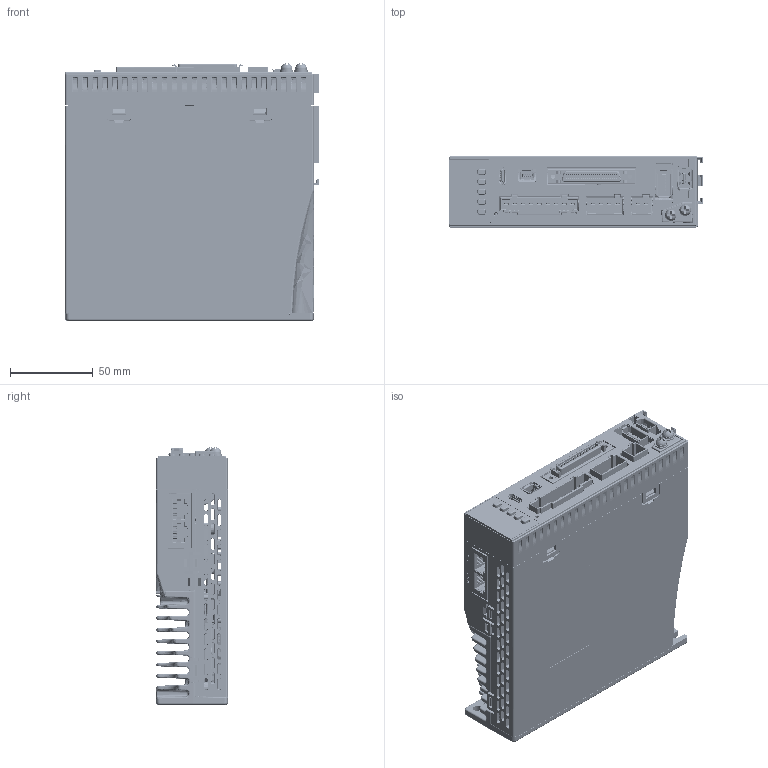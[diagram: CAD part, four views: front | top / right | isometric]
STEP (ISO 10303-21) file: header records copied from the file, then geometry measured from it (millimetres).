
FILE_DESCRIPTION((''),'2;1');
FILE_NAME('00-L8-400-ALL_ASM','2022-07-07T17:25:45',('Administrator'),(''),'CREO PARAMETRIC BY PTC INC, 2019224','CREO PARAMETRIC BY PTC INC, 2019224','');
FILE_SCHEMA(('CONFIG_CONTROL_DESIGN','GEOMETRIC_VALIDATION_PROPERTIES_MIM'));
Products named in the file (35): PCB_L8D1; CN-5-0-1X9-47-2X18-1; CN-5-0-1X4-26-2X18-1; CN-5-0-1X2-16-2X18-1; DB201S-HY; STGIB20M60TS-L; 0805LED; PCB_L8D1_ASM; KEY-PCB; L8-PCB-ALL_ASM; L8-400-BOT; L8-400-YKL; L8-400-KEY-CAP; L8-400-COOLING-FIN-20220518; L8-400-BODY_ASM; SCDZ-400; LINE-1; LINE-2; M4X10_GB818_1; D4_GB9074_26_1; D4_GB9074_24_1; M4X10_GB9074_4_ASM; L8RS-400-PCB3; USB-J-TP16-3U10; MINI-IO-0-635-TYPE1; C-5-2232303-2-A-3D; 1394-6P; SC-MCR10S90; RJ45-2-NL; L8RS-PCB-ALL_ASM; L8RS-400-TOP; L8RS-400-FRONT; L8RS-400_ASM; L8-400-ALL_ASM; 00-L8-400-ALL_ASM
Assembly tree (35 placements, depth 5):
  00-L8-400-ALL_ASM
    L8-400-ALL_ASM
      L8-PCB-ALL_ASM
        PCB_L8D1_ASM
          PCB_L8D1
          CN-5-0-1X9-47-2X18-1
          CN-5-0-1X4-26-2X18-1
          CN-5-0-1X2-16-2X18-1
          DB201S-HY
          STGIB20M60TS-L
          0805LED
        KEY-PCB
      L8-400-BODY_ASM
        L8-400-BOT
        L8-400-YKL
        L8-400-KEY-CAP
        L8-400-COOLING-FIN-20220518
      SCDZ-400
      LINE-1
      LINE-2
      M4X10_GB9074_4_ASM  x2
        M4X10_GB818_1
        D4_GB9074_26_1
        D4_GB9074_24_1
      L8RS-400_ASM
        L8RS-PCB-ALL_ASM
          L8RS-400-PCB3
          USB-J-TP16-3U10
          MINI-IO-0-635-TYPE1
          C-5-2232303-2-A-3D
          1394-6P
          SC-MCR10S90
          RJ45-2-NL
        L8RS-400-TOP
        L8RS-400-FRONT
Bounding box: 153.3 x 43 x 155.53 mm (x, y, z)
Volume: 386188.6 mm3; surface area: 310783.6 mm2
Topology: 31 solids, 97 shells, 11841 faces, 31476 edges, 19936 vertices
Faces by surface type: plane 7767, cylinder 2214, bspline 1058, cone 450, torus 157, sphere 138, extrusion 55, revolution 2
Entity records: 537205 total; most frequent: CARTESIAN_POINT 142525, ORIENTED_EDGE 62390, DIRECTION 54514, EDGE_CURVE 31195, PRESENTATION_STYLE_ASSIGNMENT 27182, STYLED_ITEM 23903, VECTOR 23176, LINE 23121
